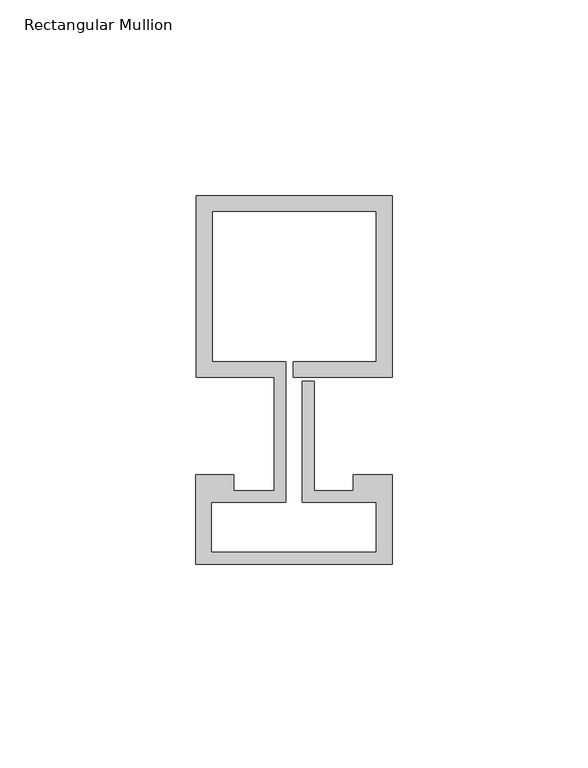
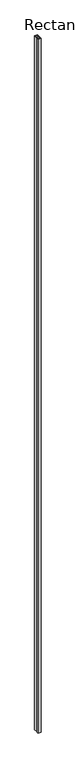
"""IFC4 building model written with IfcOpenShell, lengths in millimetres: member geometry, Rectangular Mullion : Reynaers_CW-50_Mullion-Transom_Horizontal_46.4mm_Facecap-02C."""

from ifc_helpers import new_model, si_unit, frame, origin, place, context, project, spatial, polyline, outline, extrude, source, transform, mapped, element, save


def rectangular_mullion_69cb2042(model_context):
    return source(origin(), model_context, "Body", "SweptSolid", [
        extrude(outline(polyline([(-24.8004059, 58.9), (25.1995941, 58.9), (25.1995941, 12.5), (0.0, 12.5), (0.0, 16.5), (21.1995941, 16.5), (21.1995941, 54.9), (-20.8004059, 54.9), (-20.8004059, 16.5), (-1.9004059, 16.5), (-1.9004059, -19.5), (-20.994845, -19.5), (-20.994845, -32.2191338), (21.1995941, -32.2191338), (21.1995941, -19.5), (2.2995941, -19.5), (2.2995941, 11.5), (5.2995941, 11.5), (5.2995941, -16.5), (15.2996495, -16.5), (15.2996495, -12.5), (25.1995941, -12.5), (25.1995941, -35.3), (-24.994845, -35.3), (-24.994845, -12.5), (-15.2996495, -12.5), (-15.2996495, -16.5), (-4.9004059, -16.5), (-4.9004059, 12.5), (-24.8004059, 12.5), (-24.8004059, 58.9)])), frame((0.0, 0.0, -12000.0), z_axis=(0.0, 0.0, 1.0), x_axis=(1.0, 0.0, 0.0)), (0.0, 0.0, 1.0), 12000.0),
    ])


if __name__ == "__main__":
    model = new_model("IFC4")
    model_context = context("Model", 3, world=origin())
    ifc_project = project(units=[si_unit("LENGTHUNIT", "METRE", prefix="MILLI")], contexts=[model_context])
    site = spatial("IfcSite", under=ifc_project)
    building = spatial("IfcBuilding", under=site)
    placement = place(None, origin())
    rectangular_mullion_shape = rectangular_mullion_69cb2042(model_context)
    element("IfcMember", 1, ObjectType="Rectangular Mullion : Reynaers_CW-50_Mullion-Transom_Horizontal_46.4mm_Facecap-02C", at=placement, inside=building, context=model_context, shape_type="MappedRepresentation", body=[
        mapped(rectangular_mullion_shape, transform((0.0, 0.0, 0.0), x_axis=(1.0, 0.0, 0.0), y_axis=(0.0, 1.0, 0.0), z_axis=(0.0, 0.0, 1.0))),
    ])
    save(model, "model.ifc")
